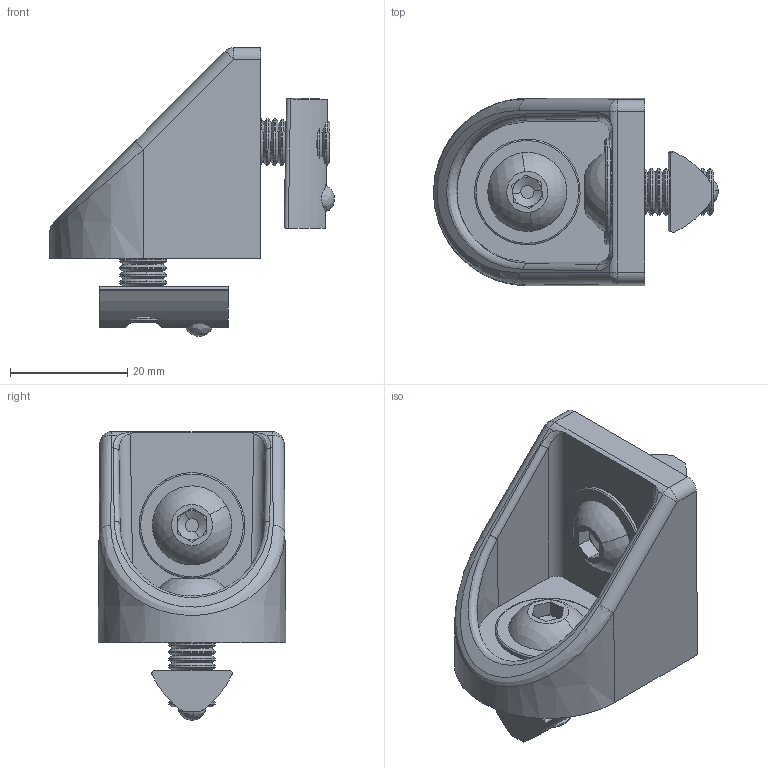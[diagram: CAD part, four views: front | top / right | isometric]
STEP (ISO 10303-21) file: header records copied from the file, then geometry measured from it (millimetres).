
FILE_DESCRIPTION (( 'STEP AP203' ), '1' );
FILE_NAME ('351220_Gelenkwinkel-Satz 8.step', '2022-03-15T08:07:55', ( '' ), ( '' ), 'SwSTEP 2.0', 'SolidWorks 2021', '' );
FILE_SCHEMA (( 'CONFIG_CONTROL_DESIGN' ));
Length unit declared in the file: millimetre
Products named in the file (4): 998099 Nutenstein 8 M8 einschwenkbar mit Kugel (ohne Steg); 351220 Gelenkwinkel 8; 370285 Schraube, Linsenkopf mit Flansch ähnlich ISO 7380, M8x18; 351220_Gelenkwinkel-Satz 8
Assembly tree (5 placements, depth 2):
  351220_Gelenkwinkel-Satz 8
    351220 Gelenkwinkel 8
    370285 Schraube, Linsenkopf mit Flansch ähnlich ISO 7380, M8x18  x2
    998099 Nutenstein 8 M8 einschwenkbar mit Kugel (ohne Steg)  x2
Bounding box: 48.58 x 32 x 49.2 mm (x, y, z)
Volume: 19434.2 mm3; surface area: 12389.4 mm2
Topology: 8 solids, 8 shells, 293 faces, 733 edges, 454 vertices
Faces by surface type: cone 110, cylinder 95, plane 62, torus 12, bspline 10, sphere 4
Entity records: 6237 total; most frequent: CARTESIAN_POINT 1671, DIRECTION 950, ORIENTED_EDGE 824, EDGE_CURVE 412, AXIS2_PLACEMENT_3D 390, VERTEX_POINT 258, CIRCLE 222, EDGE_LOOP 180
